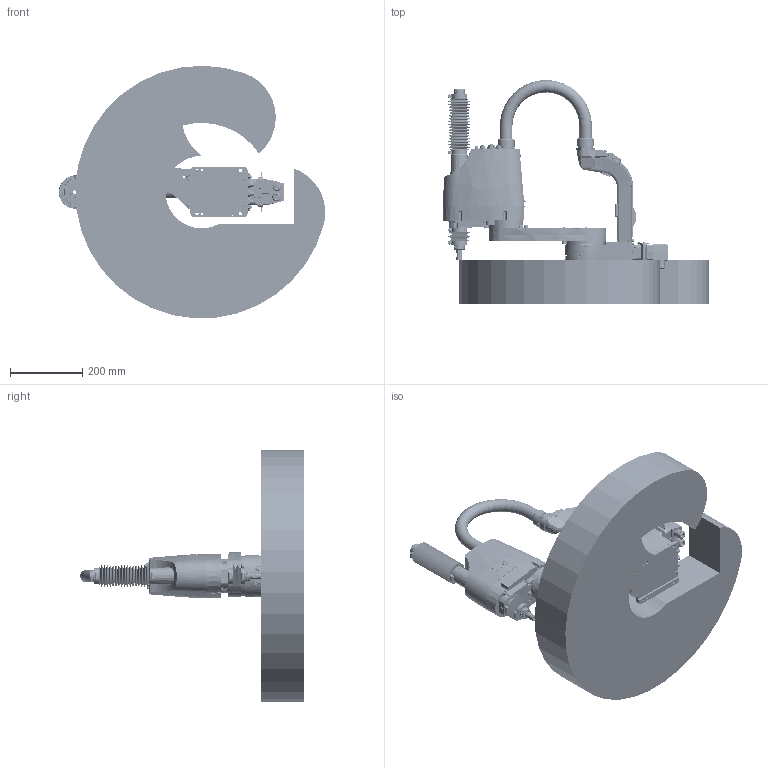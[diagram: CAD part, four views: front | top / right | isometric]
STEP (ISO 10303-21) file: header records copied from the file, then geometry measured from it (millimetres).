
FILE_DESCRIPTION( ( 'STEP AP214' ), '1' );
FILE_NAME( 'C:/Users/9607552/Desktop/GX4-A/GX4-A351C-LA-W.stp', '2023-04-07T04:58:27', ( '' ), ( '' ), ' ', 'PARTsolutions', ' ' );
FILE_SCHEMA( ( 'AUTOMOTIVE_DESIGN { 1 0 10303 214 1 1 1 1 }' ) );
Length unit declared in the file: millimetre
Products named in the file (10): GX4-A351C-LA-W; _A251C-b; _A351S-L_J1_ARM; _A251S-a; _A351S_CONDUIT; _A251C; _A251C-long; _A251C-short; _Angle; _GX4-32_WS
Assembly tree (9 placements, depth 2):
  GX4-A351C-LA-W
    _A251C-b
    _A351S-L_J1_ARM
    _A251S-a
    _A351S_CONDUIT
    _A251C
    _A251C-long
    _A251C-short
    _Angle
    _GX4-32_WS
Bounding box: 737.83 x 619.59 x 699.31 mm (x, y, z)
Volume: 42976468.6 mm3; surface area: 1881056.8 mm2
Topology: 9 solids, 9 shells, 4165 faces, 10158 edges, 6584 vertices
Faces by surface type: plane 2415, cylinder 1137, cone 403, torus 117, bspline 90, sphere 3
Full cylindrical faces by diameter (mm): 1 x30, 1.13 x55, 1.18 x55, 2.459 x4, 2.5 x19, 2.99 x1, 3 x35, 3.2 x3, 3.242 x1, 3.3 x45, 3.4 x32, 3.5 x12, 4 x4, 4.5 x24, 4.8 x8, 4.917 x2, 5.34 x8, 5.4 x14, 5.5 x26, 5.6 x4, 5.68 x4, 6 x9, 6.7 x4, 6.8 x7, 7 x44, 7.1 x4, 7.8 x4, 8 x16, 8.2 x8, 8.3 x4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
Entity records: 155730 total; most frequent: CARTESIAN_POINT 29711, DIRECTION 18442, ORIENTED_EDGE 18172, EDGE_CURVE 9086, AXIS2_PLACEMENT_3D 6997, VERTEX_POINT 6467, EDGE_LOOP 5734, FACE_OUTER_BOUND 4846
